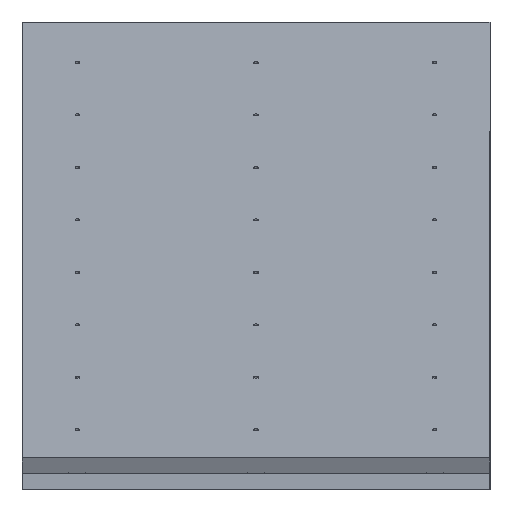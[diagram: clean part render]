
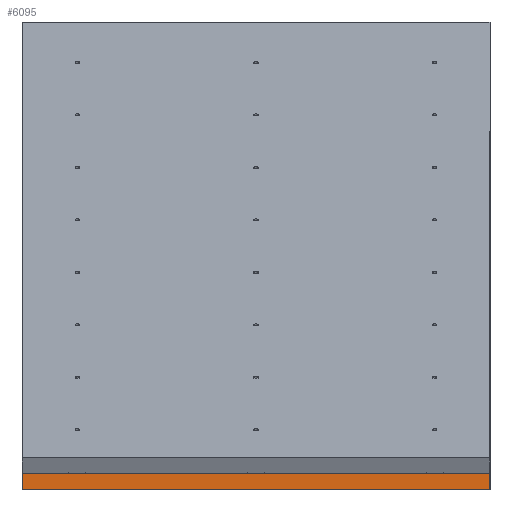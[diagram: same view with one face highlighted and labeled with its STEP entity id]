
A CAD part, left-side view. The second image highlights one B-rep face of the part: STEP entity #6095.
In plain terms, the highlighted planar face has unit normal (-1, 0, 0).
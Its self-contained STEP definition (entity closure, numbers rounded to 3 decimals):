
#5025 = EDGE_CURVE('',#5026,#5028,#5030,.T.);
#5026 = VERTEX_POINT('',#5027);
#5027 = CARTESIAN_POINT('',(0.,0.,0.));
#5028 = VERTEX_POINT('',#5029);
#5029 = CARTESIAN_POINT('',(0.,500.,0.));
#5030 = SURFACE_CURVE('',#5031,(#5035,#5047),.PCURVE_S1.);
#5031 = LINE('',#5032,#5033);
#5032 = CARTESIAN_POINT('',(0.,0.,0.));
#5033 = VECTOR('',#5034,1.);
#5034 = DIRECTION('',(0.,1.,0.));
#5035 = PCURVE('',#5036,#5041);
#5036 = PLANE('',#5037);
#5037 = AXIS2_PLACEMENT_3D('',#5038,#5039,#5040);
#5038 = CARTESIAN_POINT('',(0.,0.,0.));
#5039 = DIRECTION('',(0.,0.,-1.));
#5040 = DIRECTION('',(1.,0.,0.));
#5041 = DEFINITIONAL_REPRESENTATION('',(#5042),#5046);
#5042 = LINE('',#5043,#5044);
#5043 = CARTESIAN_POINT('',(0.,0.));
#5044 = VECTOR('',#5045,1.);
#5045 = DIRECTION('',(0.,-1.));
#5046 = ( GEOMETRIC_REPRESENTATION_CONTEXT(2) 
PARAMETRIC_REPRESENTATION_CONTEXT() REPRESENTATION_CONTEXT('2D SPACE',''
  ) );
#5047 = PCURVE('',#5048,#5053);
#5048 = PLANE('',#5049);
#5049 = AXIS2_PLACEMENT_3D('',#5050,#5051,#5052);
#5050 = CARTESIAN_POINT('',(0.,0.,18.));
#5051 = DIRECTION('',(-1.,0.,0.));
#5052 = DIRECTION('',(0.,0.,-1.));
#5053 = DEFINITIONAL_REPRESENTATION('',(#5054),#5058);
#5054 = LINE('',#5055,#5056);
#5055 = CARTESIAN_POINT('',(18.,0.));
#5056 = VECTOR('',#5057,1.);
#5057 = DIRECTION('',(0.,-1.));
#5058 = ( GEOMETRIC_REPRESENTATION_CONTEXT(2) 
PARAMETRIC_REPRESENTATION_CONTEXT() REPRESENTATION_CONTEXT('2D SPACE',''
  ) );
#5076 = PLANE('',#5077);
#5077 = AXIS2_PLACEMENT_3D('',#5078,#5079,#5080);
#5078 = CARTESIAN_POINT('',(500.,500.,9.));
#5079 = DIRECTION('',(-0.,-1.,-0.));
#5080 = DIRECTION('',(0.,0.,-1.));
#5130 = PLANE('',#5131);
#5131 = AXIS2_PLACEMENT_3D('',#5132,#5133,#5134);
#5132 = CARTESIAN_POINT('',(500.,0.,9.));
#5133 = DIRECTION('',(-0.,-1.,-0.));
#5134 = DIRECTION('',(0.,0.,-1.));
#6095 = ADVANCED_FACE('',(#6096),#5048,.T.);
#6096 = FACE_BOUND('',#6097,.T.);
#6097 = EDGE_LOOP('',(#6098,#6128,#6149,#6150));
#6098 = ORIENTED_EDGE('',*,*,#6099,.T.);
#6099 = EDGE_CURVE('',#6100,#6102,#6104,.T.);
#6100 = VERTEX_POINT('',#6101);
#6101 = CARTESIAN_POINT('',(0.,0.,18.));
#6102 = VERTEX_POINT('',#6103);
#6103 = CARTESIAN_POINT('',(0.,500.,18.));
#6104 = SURFACE_CURVE('',#6105,(#6109,#6116),.PCURVE_S1.);
#6105 = LINE('',#6106,#6107);
#6106 = CARTESIAN_POINT('',(0.,0.,18.));
#6107 = VECTOR('',#6108,1.);
#6108 = DIRECTION('',(0.,1.,0.));
#6109 = PCURVE('',#5048,#6110);
#6110 = DEFINITIONAL_REPRESENTATION('',(#6111),#6115);
#6111 = LINE('',#6112,#6113);
#6112 = CARTESIAN_POINT('',(0.,-0.));
#6113 = VECTOR('',#6114,1.);
#6114 = DIRECTION('',(0.,-1.));
#6115 = ( GEOMETRIC_REPRESENTATION_CONTEXT(2) 
PARAMETRIC_REPRESENTATION_CONTEXT() REPRESENTATION_CONTEXT('2D SPACE',''
  ) );
#6116 = PCURVE('',#6117,#6122);
#6117 = PLANE('',#6118);
#6118 = AXIS2_PLACEMENT_3D('',#6119,#6120,#6121);
#6119 = CARTESIAN_POINT('',(1000.,0.,18.));
#6120 = DIRECTION('',(0.,-0.,1.));
#6121 = DIRECTION('',(-1.,0.,0.));
#6122 = DEFINITIONAL_REPRESENTATION('',(#6123),#6127);
#6123 = LINE('',#6124,#6125);
#6124 = CARTESIAN_POINT('',(1000.,0.));
#6125 = VECTOR('',#6126,1.);
#6126 = DIRECTION('',(0.,-1.));
#6127 = ( GEOMETRIC_REPRESENTATION_CONTEXT(2) 
PARAMETRIC_REPRESENTATION_CONTEXT() REPRESENTATION_CONTEXT('2D SPACE',''
  ) );
#6128 = ORIENTED_EDGE('',*,*,#6129,.T.);
#6129 = EDGE_CURVE('',#6102,#5028,#6130,.T.);
#6130 = SURFACE_CURVE('',#6131,(#6135,#6142),.PCURVE_S1.);
#6131 = LINE('',#6132,#6133);
#6132 = CARTESIAN_POINT('',(0.,500.,18.));
#6133 = VECTOR('',#6134,1.);
#6134 = DIRECTION('',(0.,0.,-1.));
#6135 = PCURVE('',#5048,#6136);
#6136 = DEFINITIONAL_REPRESENTATION('',(#6137),#6141);
#6137 = LINE('',#6138,#6139);
#6138 = CARTESIAN_POINT('',(0.,-500.));
#6139 = VECTOR('',#6140,1.);
#6140 = DIRECTION('',(1.,0.));
#6141 = ( GEOMETRIC_REPRESENTATION_CONTEXT(2) 
PARAMETRIC_REPRESENTATION_CONTEXT() REPRESENTATION_CONTEXT('2D SPACE',''
  ) );
#6142 = PCURVE('',#5076,#6143);
#6143 = DEFINITIONAL_REPRESENTATION('',(#6144),#6148);
#6144 = LINE('',#6145,#6146);
#6145 = CARTESIAN_POINT('',(-9.,-500.));
#6146 = VECTOR('',#6147,1.);
#6147 = DIRECTION('',(1.,0.));
#6148 = ( GEOMETRIC_REPRESENTATION_CONTEXT(2) 
PARAMETRIC_REPRESENTATION_CONTEXT() REPRESENTATION_CONTEXT('2D SPACE',''
  ) );
#6149 = ORIENTED_EDGE('',*,*,#5025,.F.);
#6150 = ORIENTED_EDGE('',*,*,#6151,.F.);
#6151 = EDGE_CURVE('',#6100,#5026,#6152,.T.);
#6152 = SURFACE_CURVE('',#6153,(#6157,#6164),.PCURVE_S1.);
#6153 = LINE('',#6154,#6155);
#6154 = CARTESIAN_POINT('',(0.,0.,18.));
#6155 = VECTOR('',#6156,1.);
#6156 = DIRECTION('',(0.,0.,-1.));
#6157 = PCURVE('',#5048,#6158);
#6158 = DEFINITIONAL_REPRESENTATION('',(#6159),#6163);
#6159 = LINE('',#6160,#6161);
#6160 = CARTESIAN_POINT('',(0.,-0.));
#6161 = VECTOR('',#6162,1.);
#6162 = DIRECTION('',(1.,0.));
#6163 = ( GEOMETRIC_REPRESENTATION_CONTEXT(2) 
PARAMETRIC_REPRESENTATION_CONTEXT() REPRESENTATION_CONTEXT('2D SPACE',''
  ) );
#6164 = PCURVE('',#5130,#6165);
#6165 = DEFINITIONAL_REPRESENTATION('',(#6166),#6170);
#6166 = LINE('',#6167,#6168);
#6167 = CARTESIAN_POINT('',(-9.,-500.));
#6168 = VECTOR('',#6169,1.);
#6169 = DIRECTION('',(1.,0.));
#6170 = ( GEOMETRIC_REPRESENTATION_CONTEXT(2) 
PARAMETRIC_REPRESENTATION_CONTEXT() REPRESENTATION_CONTEXT('2D SPACE',''
  ) );
